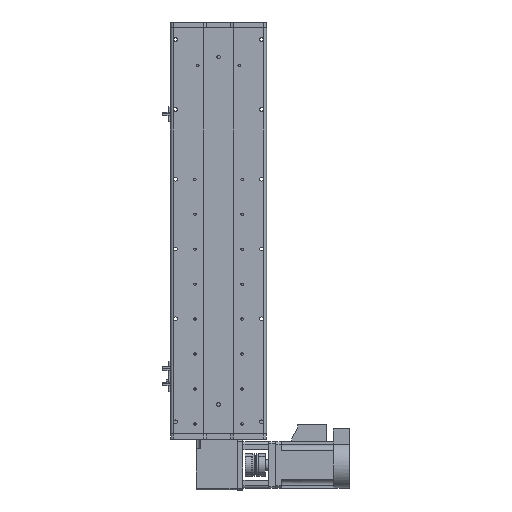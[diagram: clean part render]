
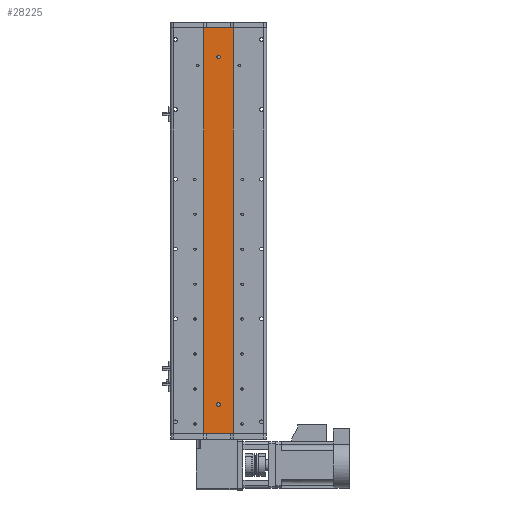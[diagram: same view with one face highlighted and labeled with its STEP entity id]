
A CAD part, front view. The second image highlights one B-rep face of the part: STEP entity #28225.
In plain terms, the highlighted planar face has unit normal (0, -1, 0).
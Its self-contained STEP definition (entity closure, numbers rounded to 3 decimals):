
#508 = DIRECTION ( 'NONE',  ( 0., 0., 1. ) ) ;
#740 = VERTEX_POINT ( 'NONE', #29022 ) ;
#1213 = VECTOR ( 'NONE', #25035, 1000. ) ;
#1272 = DIRECTION ( 'NONE',  ( 0., 0., 1. ) ) ;
#1747 = ORIENTED_EDGE ( 'NONE', *, *, #1978, .T. ) ;
#1978 = EDGE_CURVE ( 'NONE', #12660, #22988, #7402, .T. ) ;
#2894 = EDGE_LOOP ( 'NONE', ( #17342, #29539 ) ) ;
#4105 = CARTESIAN_POINT ( 'NONE',  ( -25., 1., 348.5 ) ) ;
#4661 = FACE_OUTER_BOUND ( 'NONE', #13667, .T. ) ;
#6403 = CARTESIAN_POINT ( 'NONE',  ( 0., 1., -301.5 ) ) ;
#7402 = CIRCLE ( 'NONE', #37430, 3. ) ;
#8158 = CIRCLE ( 'NONE', #22280, 3. ) ;
#8194 = EDGE_CURVE ( 'NONE', #8655, #15909, #36474, .T. ) ;
#8543 = VECTOR ( 'NONE', #32951, 1000. ) ;
#8655 = VERTEX_POINT ( 'NONE', #42330 ) ;
#9018 = AXIS2_PLACEMENT_3D ( 'NONE', #40228, #12429, #36877 ) ;
#9259 = ORIENTED_EDGE ( 'NONE', *, *, #36416, .F. ) ;
#10074 = LINE ( 'NONE', #30550, #18309 ) ;
#11718 = ORIENTED_EDGE ( 'NONE', *, *, #8194, .F. ) ;
#12137 = VECTOR ( 'NONE', #15700, 1000. ) ;
#12429 = DIRECTION ( 'NONE',  ( 0., 1., 0. ) ) ;
#12660 = VERTEX_POINT ( 'NONE', #18989 ) ;
#13667 = EDGE_LOOP ( 'NONE', ( #37700, #11718, #9259, #20172 ) ) ;
#14440 = AXIS2_PLACEMENT_3D ( 'NONE', #20080, #44497, #23611 ) ;
#15700 = DIRECTION ( 'NONE',  ( 1., 0., 0. ) ) ;
#15767 = CIRCLE ( 'NONE', #43232, 3. ) ;
#15909 = VERTEX_POINT ( 'NONE', #29416 ) ;
#16382 = DIRECTION ( 'NONE',  ( 0., 1., 0. ) ) ;
#16804 = VERTEX_POINT ( 'NONE', #27654 ) ;
#17342 = ORIENTED_EDGE ( 'NONE', *, *, #41732, .T. ) ;
#18309 = VECTOR ( 'NONE', #34043, 1000. ) ;
#18989 = CARTESIAN_POINT ( 'NONE',  ( 0., 1., -295.5 ) ) ;
#19821 = EDGE_CURVE ( 'NONE', #20932, #15909, #21481, .T. ) ;
#20080 = CARTESIAN_POINT ( 'NONE',  ( 0., 1., 298.5 ) ) ;
#20172 = ORIENTED_EDGE ( 'NONE', *, *, #30569, .T. ) ;
#20794 = EDGE_CURVE ( 'NONE', #740, #33052, #8158, .T. ) ;
#20932 = VERTEX_POINT ( 'NONE', #31430 ) ;
#21463 = DIRECTION ( 'NONE',  ( 0., 1., 0. ) ) ;
#21481 = LINE ( 'NONE', #33148, #12137 ) ;
#22197 = FACE_BOUND ( 'NONE', #2894, .T. ) ;
#22202 = DIRECTION ( 'NONE',  ( 0., 1., 0. ) ) ;
#22280 = AXIS2_PLACEMENT_3D ( 'NONE', #37317, #16382, #40808 ) ;
#22988 = VERTEX_POINT ( 'NONE', #6403 ) ;
#23611 = DIRECTION ( 'NONE',  ( 0., 0., 1. ) ) ;
#25035 = DIRECTION ( 'NONE',  ( 0., 0., -1. ) ) ;
#26893 = EDGE_CURVE ( 'NONE', #22988, #12660, #15767, .T. ) ;
#27654 = CARTESIAN_POINT ( 'NONE',  ( -25., 1., 348.5 ) ) ;
#28225 = ADVANCED_FACE ( 'NONE', ( #40757, #22197, #4661 ), #29727, .F. ) ;
#29022 = CARTESIAN_POINT ( 'NONE',  ( 0., 1., 301.5 ) ) ;
#29416 = CARTESIAN_POINT ( 'NONE',  ( 25., 1., -348.5 ) ) ;
#29539 = ORIENTED_EDGE ( 'NONE', *, *, #20794, .T. ) ;
#29727 = PLANE ( 'NONE',  #9018 ) ;
#30239 = ORIENTED_EDGE ( 'NONE', *, *, #26893, .T. ) ;
#30550 = CARTESIAN_POINT ( 'NONE',  ( 25., 1., 348.5 ) ) ;
#30569 = EDGE_CURVE ( 'NONE', #16804, #20932, #38378, .T. ) ;
#31430 = CARTESIAN_POINT ( 'NONE',  ( -25., 1., -348.5 ) ) ;
#32951 = DIRECTION ( 'NONE',  ( 0., 0., -1. ) ) ;
#33052 = VERTEX_POINT ( 'NONE', #39325 ) ;
#33148 = CARTESIAN_POINT ( 'NONE',  ( 25., 1., -348.5 ) ) ;
#34043 = DIRECTION ( 'NONE',  ( 1., 0., 0. ) ) ;
#34714 = EDGE_LOOP ( 'NONE', ( #30239, #1747 ) ) ;
#36416 = EDGE_CURVE ( 'NONE', #16804, #8655, #10074, .T. ) ;
#36434 = CARTESIAN_POINT ( 'NONE',  ( 25., 1., 348.5 ) ) ;
#36474 = LINE ( 'NONE', #36434, #8543 ) ;
#36877 = DIRECTION ( 'NONE',  ( 0., 0., 1. ) ) ;
#37317 = CARTESIAN_POINT ( 'NONE',  ( 0., 1., 298.5 ) ) ;
#37430 = AXIS2_PLACEMENT_3D ( 'NONE', #42320, #21463, #508 ) ;
#37440 = CIRCLE ( 'NONE', #14440, 3. ) ;
#37700 = ORIENTED_EDGE ( 'NONE', *, *, #19821, .T. ) ;
#38378 = LINE ( 'NONE', #4105, #1213 ) ;
#39325 = CARTESIAN_POINT ( 'NONE',  ( 0., 1., 295.5 ) ) ;
#40228 = CARTESIAN_POINT ( 'NONE',  ( 25., 1., 348.5 ) ) ;
#40757 = FACE_BOUND ( 'NONE', #34714, .T. ) ;
#40808 = DIRECTION ( 'NONE',  ( 0., 0., 1. ) ) ;
#41732 = EDGE_CURVE ( 'NONE', #33052, #740, #37440, .T. ) ;
#42320 = CARTESIAN_POINT ( 'NONE',  ( 0., 1., -298.5 ) ) ;
#42330 = CARTESIAN_POINT ( 'NONE',  ( 25., 1., 348.5 ) ) ;
#43072 = CARTESIAN_POINT ( 'NONE',  ( 0., 1., -298.5 ) ) ;
#43232 = AXIS2_PLACEMENT_3D ( 'NONE', #43072, #22202, #1272 ) ;
#44497 = DIRECTION ( 'NONE',  ( 0., 1., 0. ) ) ;
